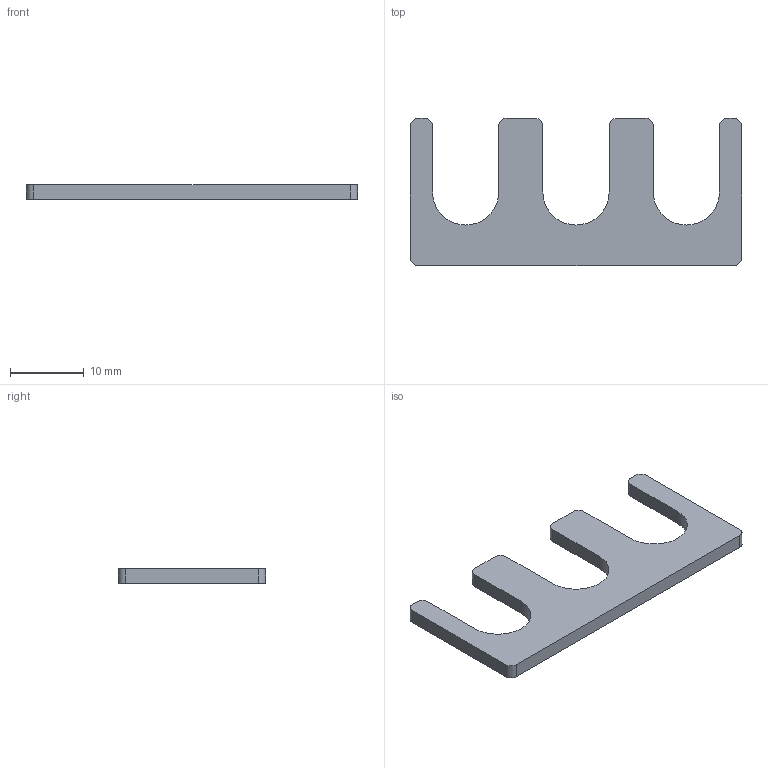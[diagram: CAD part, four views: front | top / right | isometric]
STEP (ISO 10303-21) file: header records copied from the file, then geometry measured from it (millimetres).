
FILE_DESCRIPTION (( 'STEP AP214' ), '1' );
FILE_NAME ('S-45x20-08-03-20-VA-00-00__Notum.STEP', '2018-03-29T11:21:51', ( '' ), ( '' ), 'SwSTEP 2.0', 'SolidWorks 2015', '' );
FILE_SCHEMA (( 'AUTOMOTIVE_DESIGN' ));
Length unit declared in the file: millimetre
Products named in the file (1): S-45x20-08-03-20-VA-00-00__Notum
Bounding box: 45 x 20 x 2 mm (x, y, z)
Volume: 1064.9 mm3; surface area: 1467.1 mm2
Topology: 1 solids, 1 shells, 28 faces, 78 edges, 52 vertices
Faces by surface type: plane 15, cylinder 13
Entity records: 942 total; most frequent: DIRECTION 162, CARTESIAN_POINT 159, ORIENTED_EDGE 156, EDGE_CURVE 78, AXIS2_PLACEMENT_3D 55, VECTOR 52, LINE 52, VERTEX_POINT 52
